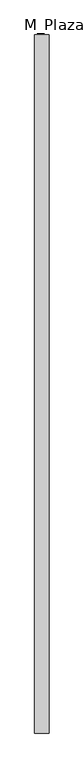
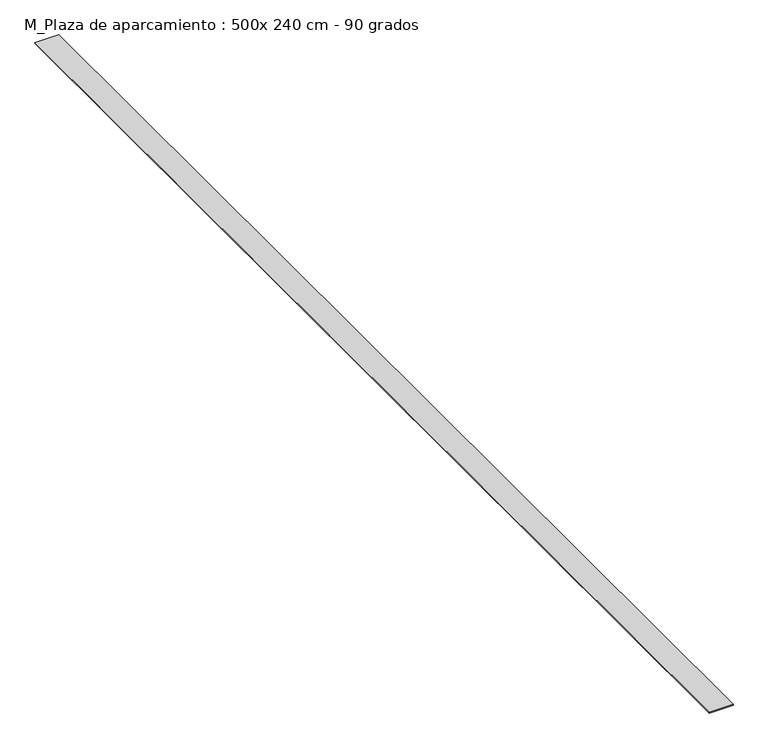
"""IFC4 building model written with IfcOpenShell, lengths in millimetres: proxy geometry, M_Plaza de aparcamiento : 500x 240 cm - 90 grados."""

from ifc_helpers import new_model, si_unit, origin, origin_with_axes, place, context, project, spatial, polyline, outline, extrude, source, transform, mapped, element, save


def m_plaza_de_aparcamiento_500x_240_cm_90_grados_d35e9f12(model_context):
    return source(origin(), model_context, "Body", "SweptSolid", [
        extrude(outline(polyline([(-50.8, 0.0), (-50.8, 5000.0), (50.8, 5000.0), (50.8, 0.0), (-50.8, 0.0)])), origin_with_axes(), (0.0, 0.0, 1.0), 3.175),
    ])


if __name__ == "__main__":
    model = new_model("IFC4")
    model_context = context("Model", 3, world=origin())
    ifc_project = project(units=[si_unit("LENGTHUNIT", "METRE", prefix="MILLI")], contexts=[model_context])
    site = spatial("IfcSite", under=ifc_project)
    building = spatial("IfcBuilding", under=site)
    placement = place(None, origin())
    m_plaza_de_aparcamiento_500x_240_cm_90_grados_shape = m_plaza_de_aparcamiento_500x_240_cm_90_grados_d35e9f12(model_context)
    element("IfcBuildingElementProxy", 1, Name="M_Plaza de aparcamiento : 500x 240 cm - 90 grados", ObjectType="M_Plaza de aparcamiento : 500x 240 cm - 90 grados", at=placement, inside=building, context=model_context, shape_type="MappedRepresentation", body=[
        mapped(m_plaza_de_aparcamiento_500x_240_cm_90_grados_shape, transform((0.0, 0.0, 0.0), x_axis=(1.0, 0.0, 0.0), y_axis=(0.0, 1.0, 0.0), z_axis=(0.0, 0.0, 1.0))),
    ])
    save(model, "model.ifc")
